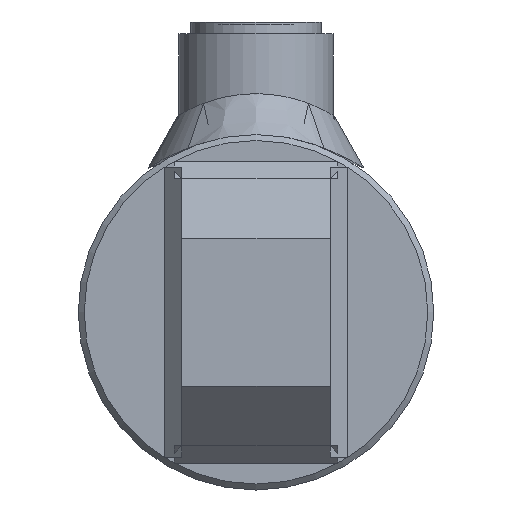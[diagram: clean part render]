
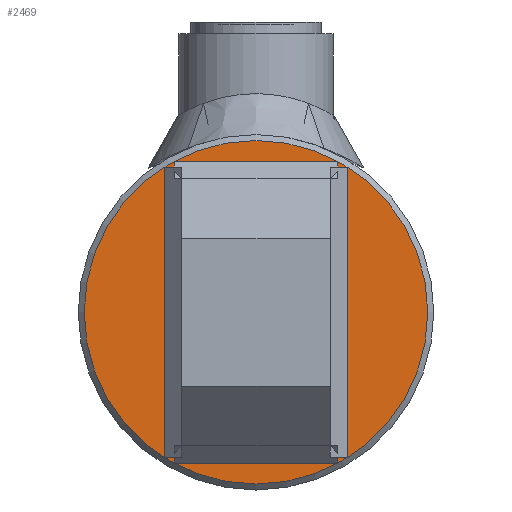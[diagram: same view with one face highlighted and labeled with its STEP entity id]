
A CAD part, left-side view. The second image highlights one B-rep face of the part: STEP entity #2469.
In plain terms, the highlighted planar face has unit normal (-1, 0, 0).
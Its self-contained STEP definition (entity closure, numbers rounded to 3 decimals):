
#2469 = ADVANCED_FACE( '', ( #5860 ), #5861, .T. );
#5860 = FACE_OUTER_BOUND( '', #7700, .T. );
#5861 = PLANE( '', #7701 );
#7700 = EDGE_LOOP( '', ( #8482 ) );
#7701 = AXIS2_PLACEMENT_3D( '', #8483, #8484, #8485 );
#8482 = ORIENTED_EDGE( '', *, *, #9709, .T. );
#8483 = CARTESIAN_POINT( '', ( -10., 0., 0. ) );
#8484 = DIRECTION( '', ( -1., 0., 0. ) );
#8485 = DIRECTION( '', ( 0., -1., 0. ) );
#9709 = EDGE_CURVE( '', #11871, #11871, #11872, .T. );
#11871 = VERTEX_POINT( '', #12674 );
#11872 = CIRCLE( '', #12675, 29. );
#12674 = CARTESIAN_POINT( '', ( -10., -29., 0. ) );
#12675 = AXIS2_PLACEMENT_3D( '', #12890, #12891, #12892 );
#12890 = CARTESIAN_POINT( '', ( -10., 0., 0. ) );
#12891 = DIRECTION( '', ( -1., 0., 0. ) );
#12892 = DIRECTION( '', ( 0., -1., 0. ) );
